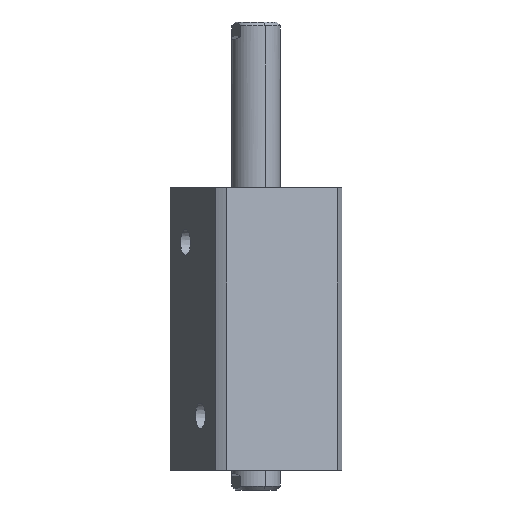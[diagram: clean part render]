
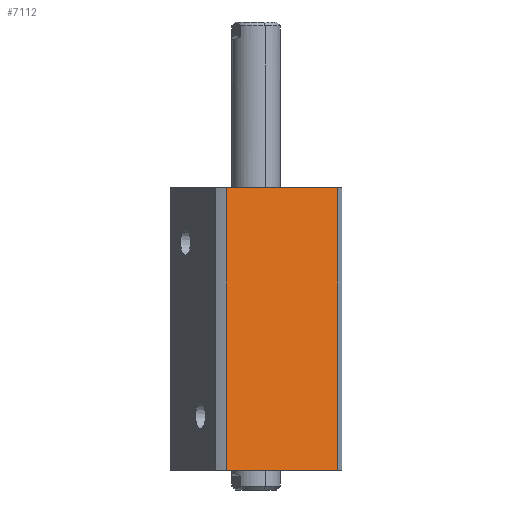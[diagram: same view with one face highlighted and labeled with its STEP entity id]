
A CAD part, left-side view. The second image highlights one B-rep face of the part: STEP entity #7112.
In plain terms, the highlighted planar face has unit normal (-0.924, -0.383, 0) as drawn and (1, 0, 0) by its records, which use the part's own axes.
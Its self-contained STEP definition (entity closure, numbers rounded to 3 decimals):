
#231 = VECTOR ( 'NONE', #10043, 1000. ) ;
#277 = DIRECTION ( 'NONE',  ( 0., 0., 1. ) ) ;
#420 = DIRECTION ( 'NONE',  ( 0., 1., 0. ) ) ;
#532 = VERTEX_POINT ( 'NONE', #8025 ) ;
#706 = CARTESIAN_POINT ( 'NONE',  ( 35., -30.615, 145. ) ) ;
#871 = AXIS2_PLACEMENT_3D ( 'NONE', #7191, #3128, #8772 ) ;
#1188 = EDGE_CURVE ( 'NONE', #3142, #1793, #8111, .T. ) ;
#1793 = VERTEX_POINT ( 'NONE', #5013 ) ;
#2767 = ORIENTED_EDGE ( 'NONE', *, *, #4580, .T. ) ;
#3128 = DIRECTION ( 'NONE',  ( -1., 0., 0. ) ) ;
#3142 = VERTEX_POINT ( 'NONE', #706 ) ;
#3261 = ORIENTED_EDGE ( 'NONE', *, *, #3676, .F. ) ;
#3387 = VECTOR ( 'NONE', #420, 1000. ) ;
#3508 = VECTOR ( 'NONE', #277, 1000. ) ;
#3676 = EDGE_CURVE ( 'NONE', #532, #3142, #9901, .T. ) ;
#3815 = EDGE_CURVE ( 'NONE', #1793, #8380, #6711, .T. ) ;
#3825 = VECTOR ( 'NONE', #6408, 1000. ) ;
#4046 = ORIENTED_EDGE ( 'NONE', *, *, #1188, .F. ) ;
#4486 = CARTESIAN_POINT ( 'NONE',  ( 35., 30.615, -155. ) ) ;
#4580 = EDGE_CURVE ( 'NONE', #532, #8380, #9542, .T. ) ;
#5013 = CARTESIAN_POINT ( 'NONE',  ( 35., 30.615, 145. ) ) ;
#5297 = CARTESIAN_POINT ( 'NONE',  ( 35., 35., 0. ) ) ;
#5461 = ORIENTED_EDGE ( 'NONE', *, *, #3815, .F. ) ;
#6147 = CARTESIAN_POINT ( 'NONE',  ( 35., 35., 145. ) ) ;
#6408 = DIRECTION ( 'NONE',  ( 0., 1., 0. ) ) ;
#6711 = LINE ( 'NONE', #4486, #231 ) ;
#6777 = CARTESIAN_POINT ( 'NONE',  ( 35., -30.615, -155. ) ) ;
#6872 = CARTESIAN_POINT ( 'NONE',  ( 35., 30.615, 0. ) ) ;
#7112 = ADVANCED_FACE ( 'NONE', ( #8541 ), #7974, .F. ) ;
#7191 = CARTESIAN_POINT ( 'NONE',  ( 35., 35., 145. ) ) ;
#7774 = EDGE_LOOP ( 'NONE', ( #3261, #2767, #5461, #4046 ) ) ;
#7974 = PLANE ( 'NONE',  #871 ) ;
#8025 = CARTESIAN_POINT ( 'NONE',  ( 35., -30.615, 0. ) ) ;
#8111 = LINE ( 'NONE', #6147, #3825 ) ;
#8380 = VERTEX_POINT ( 'NONE', #6872 ) ;
#8541 = FACE_OUTER_BOUND ( 'NONE', #7774, .T. ) ;
#8772 = DIRECTION ( 'NONE',  ( 0., -1., 0. ) ) ;
#9542 = LINE ( 'NONE', #5297, #3387 ) ;
#9901 = LINE ( 'NONE', #6777, #3508 ) ;
#10043 = DIRECTION ( 'NONE',  ( 0., 0., -1. ) ) ;
